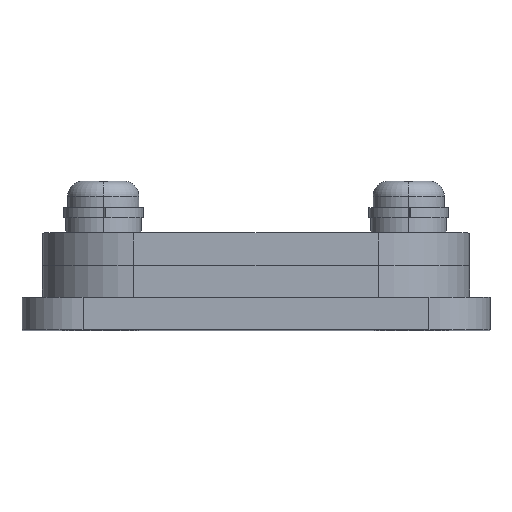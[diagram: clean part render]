
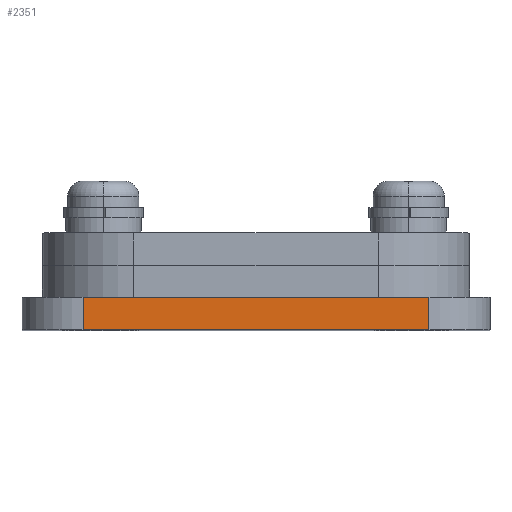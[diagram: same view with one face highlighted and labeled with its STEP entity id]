
A CAD part, top view. The second image highlights one B-rep face of the part: STEP entity #2351.
In plain terms, the highlighted planar face has unit normal (0, 0, 1).
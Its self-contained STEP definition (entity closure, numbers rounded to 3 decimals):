
#41 = CARTESIAN_POINT ( 'NONE',  ( -17., 3.2, 51. ) ) ;
#87 = VERTEX_POINT ( 'NONE', #4379 ) ;
#169 = DIRECTION ( 'NONE',  ( 0., -1., 0. ) ) ;
#378 = LINE ( 'NONE', #1648, #4451 ) ;
#481 = VECTOR ( 'NONE', #615, 1000. ) ;
#519 = ORIENTED_EDGE ( 'NONE', *, *, #3752, .F. ) ;
#579 = DIRECTION ( 'NONE',  ( 1., 0., 0. ) ) ;
#615 = DIRECTION ( 'NONE',  ( 1., 0., 0. ) ) ;
#725 = CARTESIAN_POINT ( 'NONE',  ( -17., 0., 51. ) ) ;
#809 = DIRECTION ( 'NONE',  ( 0., 0., -1. ) ) ;
#977 = CARTESIAN_POINT ( 'NONE',  ( -17., 0., 51. ) ) ;
#1011 = CARTESIAN_POINT ( 'NONE',  ( 17., 3.2, 51. ) ) ;
#1151 = LINE ( 'NONE', #977, #481 ) ;
#1202 = CARTESIAN_POINT ( 'NONE',  ( -17., 3.2, 51. ) ) ;
#1227 = VERTEX_POINT ( 'NONE', #1877 ) ;
#1372 = ORIENTED_EDGE ( 'NONE', *, *, #4148, .F. ) ;
#1482 = PLANE ( 'NONE',  #4611 ) ;
#1648 = CARTESIAN_POINT ( 'NONE',  ( -17., 3.2, 51. ) ) ;
#1708 = ORIENTED_EDGE ( 'NONE', *, *, #4728, .T. ) ;
#1804 = LINE ( 'NONE', #1821, #2375 ) ;
#1821 = CARTESIAN_POINT ( 'NONE',  ( 17., 3.2, 51. ) ) ;
#1843 = LINE ( 'NONE', #1202, #2842 ) ;
#1877 = CARTESIAN_POINT ( 'NONE',  ( 17., 0., 51. ) ) ;
#2351 = ADVANCED_FACE ( 'NONE', ( #4560 ), #1482, .F. ) ;
#2375 = VECTOR ( 'NONE', #2587, 1000. ) ;
#2468 = EDGE_CURVE ( 'NONE', #87, #2970, #1843, .T. ) ;
#2587 = DIRECTION ( 'NONE',  ( 0., -1., 0. ) ) ;
#2832 = VERTEX_POINT ( 'NONE', #1011 ) ;
#2842 = VECTOR ( 'NONE', #169, 1000. ) ;
#2970 = VERTEX_POINT ( 'NONE', #725 ) ;
#3405 = DIRECTION ( 'NONE',  ( -1., 0., 0. ) ) ;
#3705 = EDGE_LOOP ( 'NONE', ( #1708, #519, #1372, #4044 ) ) ;
#3752 = EDGE_CURVE ( 'NONE', #2832, #1227, #1804, .T. ) ;
#4044 = ORIENTED_EDGE ( 'NONE', *, *, #2468, .T. ) ;
#4148 = EDGE_CURVE ( 'NONE', #87, #2832, #378, .T. ) ;
#4379 = CARTESIAN_POINT ( 'NONE',  ( -17., 3.2, 51. ) ) ;
#4451 = VECTOR ( 'NONE', #579, 1000. ) ;
#4560 = FACE_OUTER_BOUND ( 'NONE', #3705, .T. ) ;
#4611 = AXIS2_PLACEMENT_3D ( 'NONE', #41, #809, #3405 ) ;
#4728 = EDGE_CURVE ( 'NONE', #2970, #1227, #1151, .T. ) ;
